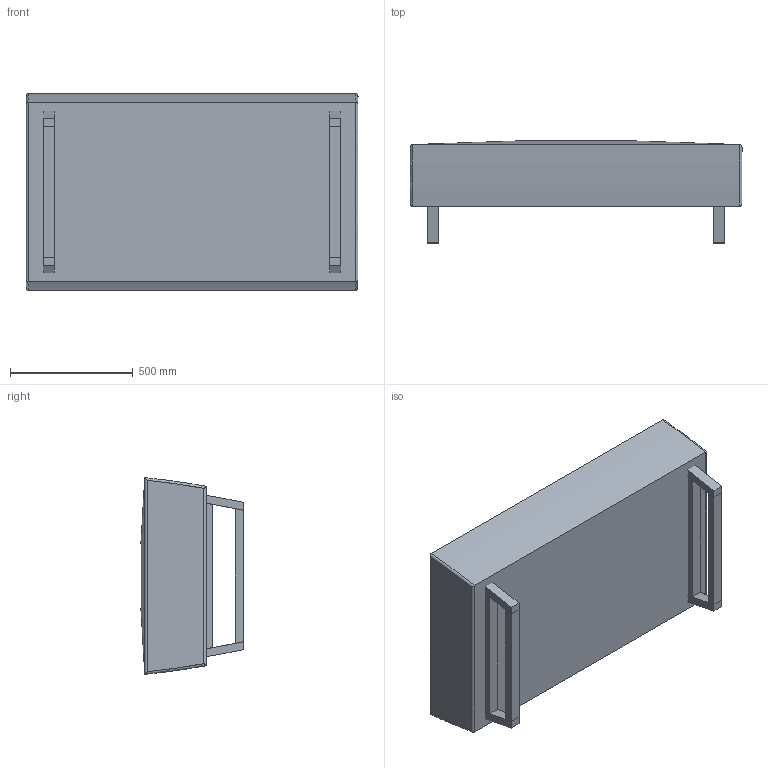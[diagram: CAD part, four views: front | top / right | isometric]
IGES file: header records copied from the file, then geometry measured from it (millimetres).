
Start section: SolidWorks IGES file using analytic representation for surfaces
Global section: file name: P:\3D CAD BLOCKS\us\TWO SEAT WITHOUT BACK\us - TWO SEAT WITHOUT BACK.IGS; native system: SolidWorks 2012; preprocessor: SolidWorks 2012; author: adam; date: 140220.190317; units: millimetre
Bounding box: 1350 x 415.86 x 800 mm (x, y, z)
Surface area: 4035439.4 mm2 (no closed solid volume)
Topology: 0 solids, 0 shells, 118 faces, 960 edges, 960 vertices
Faces by surface type: bspline 98, revolution 20
